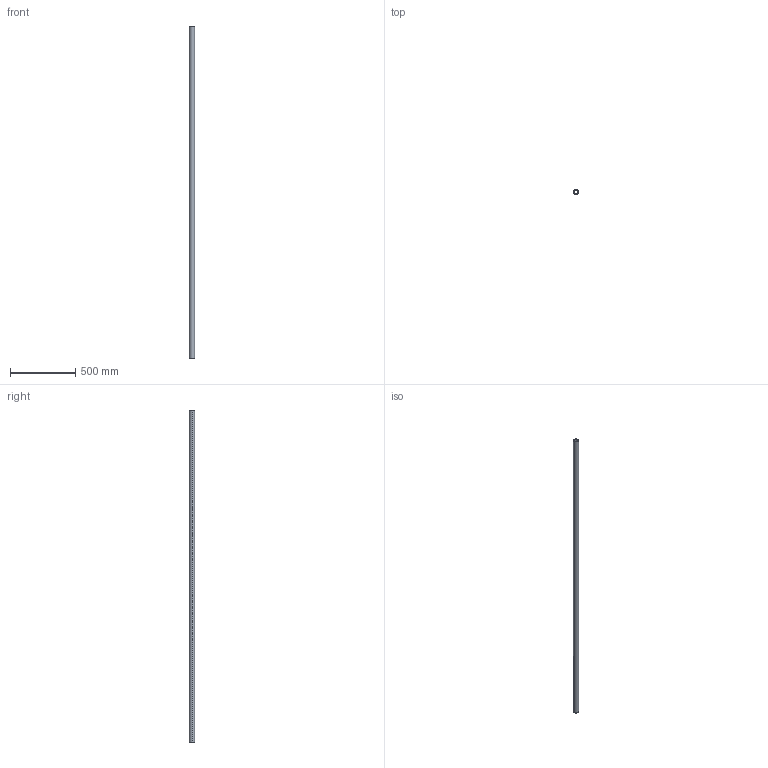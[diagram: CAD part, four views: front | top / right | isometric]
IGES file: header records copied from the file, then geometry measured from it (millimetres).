
Start section: SolidWorks IGES file using analytic representation for surfaces
Global section: file name: C:\Users\IanO\Desktop\L1771_v2\L1771.40_v2\L1771.40_v2_20230705_IGES\L1771.40-2550.igs; native system: SolidWorks 2019; preprocessor: SolidWorks 2019; author: IanO; date: 230705.161322; units: millimetre
Bounding box: 40 x 40 x 2550 mm (x, y, z)
Surface area: 546033.9 mm2 (no closed solid volume)
Topology: 0 solids, 0 shells, 6 faces, 272 edges, 272 vertices
Faces by surface type: revolution 4, bspline 2
